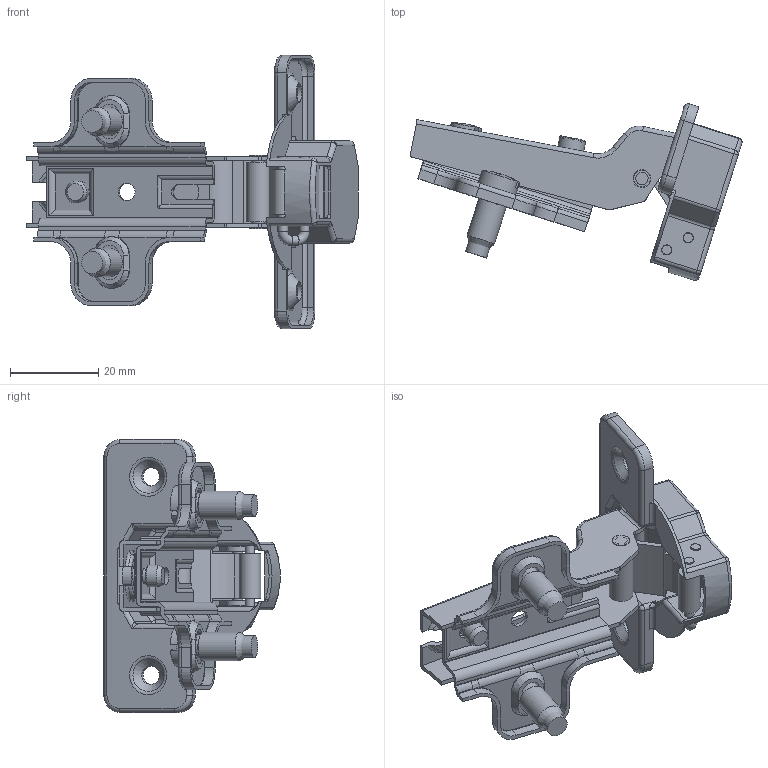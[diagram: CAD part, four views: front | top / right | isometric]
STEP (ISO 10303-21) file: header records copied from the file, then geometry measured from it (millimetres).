
FILE_DESCRIPTION(/* description */ (''),/* implementation_level */ '2;1');
FILE_NAME(/* name */ 'W:\R&D\pub\Katalog techniczny\bryły 3D\ZP-BICN080ZE.stp',/* time_stamp */ '2016-09-13T12:48:55+02:00',/* author */ ('tomaszw'),/* organization */ (''),/* preprocessor_version */ 'ST-DEVELOPER v16.1',/* originating_system */ 'Autodesk Inventor 2016',/* authorisation */ '');
FILE_SCHEMA (('AUTOMOTIVE_DESIGN { 1 0 10303 214 3 1 1 }'));
Length unit declared in the file: millimetre
Products named in the file (12): P0; ZP-BICN0_1; ZP-BICN0-P; ZP-BICN0_2; ZP-BICN0_pin1; ZP-BICN0_pin2; ZP-BICN0_pin3; Euro; Wkret4x6; WR; ZP-BICN080BE; ZP-BICN(R)07(8)(9)0(2)BE(ZE)
Assembly tree (12 placements, depth 2):
  ZP-BICN(R)07(8)(9)0(2)BE(ZE)
    P0
    ZP-BICN0_1
    ZP-BICN0-P
    ZP-BICN0_2
    ZP-BICN0_pin1
    ZP-BICN0_pin2
    ZP-BICN0_pin3
    Euro  x2
    Wkret4x6
    WR
    ZP-BICN080BE
Bounding box: 75.32 x 40 x 62 mm (x, y, z)
Volume: 9592.4 mm3; surface area: 20029.5 mm2
Topology: 14 solids, 14 shells, 691 faces, 1705 edges, 1036 vertices
Faces by surface type: cylinder 292, plane 239, torus 67, bspline 37, sphere 34, cone 22
Full cylindrical faces by diameter (mm): 2.2 x3, 2.279 x2, 2.3 x4, 2.5 x4, 2.8 x1, 3 x1, 3.242 x1, 3.5 x2, 3.693 x2, 3.766 x2, 4 x4, 4.2 x2, 5 x3, 5.5 x2, 6 x2, 6.5 x2, 7 x1, 9 x2
Entity records: 20772 total; most frequent: CARTESIAN_POINT 4655, DIRECTION 3509, ORIENTED_EDGE 3166, EDGE_CURVE 1583, AXIS2_PLACEMENT_3D 1363, VERTEX_POINT 994, LINE 783, VECTOR 783
